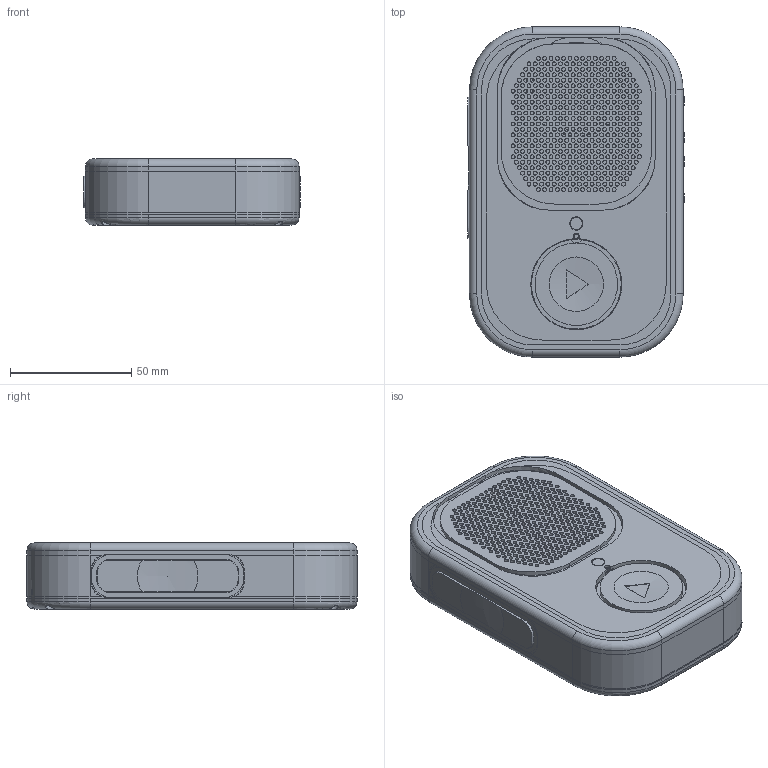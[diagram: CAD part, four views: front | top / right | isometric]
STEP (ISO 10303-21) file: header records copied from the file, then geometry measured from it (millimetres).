
FILE_DESCRIPTION(('Open CASCADE Model'),'2;1');
FILE_NAME('Open CASCADE Shape Model','2026-09-09T12:58:10',('Author'),( 'Open CASCADE'),'Open CASCADE STEP processor 7.9','Open CASCADE 7.9' ,'Unknown');
FILE_SCHEMA(('AUTOMOTIVE_DESIGN { 1 0 10303 214 1 1 1 1 }'));
Length unit declared in the file: millimetre
Products named in the file (39): Walkie One 5.2 SR2 Functional Case; 01_front_structural_tub_SR2; 02_rear_structural_cover_SR2; 07_speaker_edge_cradle_SR2; 08_speaker_front_gasket; 09_battery_tray; 10_ptt_key; 10_volume_minus_key; 10_volume_plus_key; 11_ptt_bumper_collar; 11_volume_minus_bumper_collar; 11_volume_plus_bumper_collar; 13_circular_play_key; 15_front_switch_holder_SR2; 16_rgb_led_support_ring; 17_microphone_cradle; 18_microphone_acoustic_gasket; 21_ptt_grip_pad; 21_volume_minus_grip_pad; 21_volume_plus_grip_pad; 27_offset_status_light_guide_SR2; 28_acoustic_mesh; 29_microphone_PSA; 30_optical_support_pad_1; 30_optical_support_pad_2; 31_play_seat_shim_1; 31_play_seat_shim_2; 32_play_stop_shim; 33_PCB_COMPLIANT_PRELOAD_PADS; 34_BATTERY_XY_COMPLIANT_PADS; 35_BATTERY_FRONT_COMPLIANT_PADS; 36_SPEAKER_REAR_CLAMP; 37_SPEAKER_MAGNET_PRELOAD_PAD; 38_LTE_NONMETALLIC_RETAINER_FRAME; FRONT_SWITCH_CORNER_KEEPER_-1; FRONT_SWITCH_CORNER_KEEPER_1; PTT_SWITCH_REAR_KEEPER; VOLUME_DOWN_SWITCH_REAR_KEEPER; VOLUME_UP_SWITCH_REAR_KEEPER
Assembly tree (38 placements, depth 2):
  Walkie One 5.2 SR2 Functional Case
    01_front_structural_tub_SR2
    02_rear_structural_cover_SR2
    07_speaker_edge_cradle_SR2
    08_speaker_front_gasket
    09_battery_tray
    10_ptt_key
    10_volume_minus_key
    10_volume_plus_key
    11_ptt_bumper_collar
    11_volume_minus_bumper_collar
    11_volume_plus_bumper_collar
    13_circular_play_key
    15_front_switch_holder_SR2
    16_rgb_led_support_ring
    17_microphone_cradle
    18_microphone_acoustic_gasket
    21_ptt_grip_pad
    21_volume_minus_grip_pad
    21_volume_plus_grip_pad
    27_offset_status_light_guide_SR2
    28_acoustic_mesh
    29_microphone_PSA
    30_optical_support_pad_1
    30_optical_support_pad_2
    31_play_seat_shim_1
    31_play_seat_shim_2
    32_play_stop_shim
    33_PCB_COMPLIANT_PRELOAD_PADS
    34_BATTERY_XY_COMPLIANT_PADS
    35_BATTERY_FRONT_COMPLIANT_PADS
    36_SPEAKER_REAR_CLAMP
    37_SPEAKER_MAGNET_PRELOAD_PAD
    38_LTE_NONMETALLIC_RETAINER_FRAME
    FRONT_SWITCH_CORNER_KEEPER_-1
    FRONT_SWITCH_CORNER_KEEPER_1
    PTT_SWITCH_REAR_KEEPER
    VOLUME_DOWN_SWITCH_REAR_KEEPER
    VOLUME_UP_SWITCH_REAR_KEEPER
Bounding box: 89.16 x 136 x 27.2 mm (x, y, z)
Volume: 101226.1 mm3; surface area: 115786.3 mm2
Topology: 45 solids, 47 shells, 2272 faces, 6403 edges, 4238 vertices
Faces by surface type: plane 1330, cylinder 914, torus 24, sphere 4
Full cylindrical faces by diameter (mm): 1.6 x483, 1.7 x10, 1.8 x1, 2 x1, 2.2 x20, 4.4 x4, 5 x3, 5.2 x1, 5.3 x3, 5.5 x1, 6 x2, 6.2 x2, 7 x1, 15 x1, 34 x1, 36.4 x2, 39.6 x1
Entity records: 167366 total; most frequent: CARTESIAN_POINT 40585, DIRECTION 22925, LINE 13344, VECTOR 13344, ORIENTED_EDGE 12804, PCURVE 12804, DEFINITIONAL_REPRESENTATION 12804, EDGE_CURVE 6402
